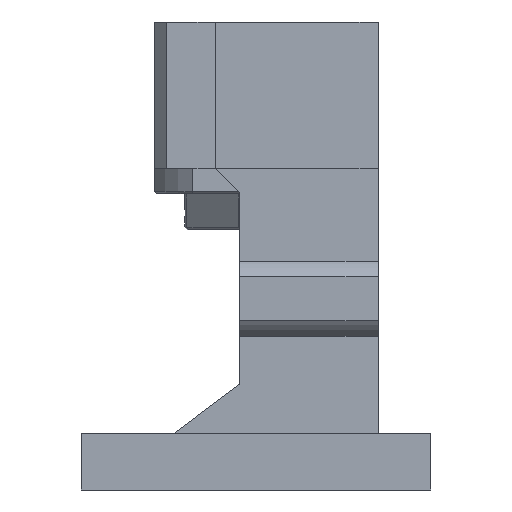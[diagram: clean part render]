
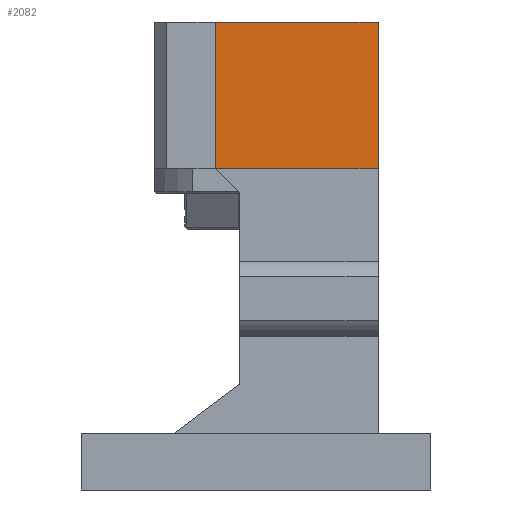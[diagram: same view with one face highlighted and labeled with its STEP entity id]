
A CAD part, left-side view. The second image highlights one B-rep face of the part: STEP entity #2082.
In plain terms, the highlighted planar face has unit normal (-1, 0, 0).
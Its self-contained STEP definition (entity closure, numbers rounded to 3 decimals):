
#190 = VECTOR ( 'NONE', #6085, 1000. ) ;
#367 = DIRECTION ( 'NONE',  ( 0., 0., 1. ) ) ;
#976 = VECTOR ( 'NONE', #7562, 1000. ) ;
#1036 = CARTESIAN_POINT ( 'NONE',  ( -44., 10., -30. ) ) ;
#1124 = CARTESIAN_POINT ( 'NONE',  ( -44., 10., 6. ) ) ;
#1686 = EDGE_CURVE ( 'NONE', #6877, #5844, #7786, .T. ) ;
#1707 = EDGE_LOOP ( 'NONE', ( #2124, #5259, #1896, #3257 ) ) ;
#1825 = LINE ( 'NONE', #2398, #190 ) ;
#1896 = ORIENTED_EDGE ( 'NONE', *, *, #6902, .F. ) ;
#2082 = ADVANCED_FACE ( 'NONE', ( #6319 ), #3403, .T. ) ;
#2124 = ORIENTED_EDGE ( 'NONE', *, *, #2819, .T. ) ;
#2398 = CARTESIAN_POINT ( 'NONE',  ( -44., 10., -30. ) ) ;
#2520 = LINE ( 'NONE', #2673, #5589 ) ;
#2658 = VERTEX_POINT ( 'NONE', #2817 ) ;
#2673 = CARTESIAN_POINT ( 'NONE',  ( -44., 10., -30. ) ) ;
#2817 = CARTESIAN_POINT ( 'NONE',  ( -44., -30., -30. ) ) ;
#2819 = EDGE_CURVE ( 'NONE', #2658, #5844, #7353, .T. ) ;
#2855 = VECTOR ( 'NONE', #3874, 1000. ) ;
#2994 = CARTESIAN_POINT ( 'NONE',  ( -44., 10., 6. ) ) ;
#3257 = ORIENTED_EDGE ( 'NONE', *, *, #4106, .T. ) ;
#3403 = PLANE ( 'NONE',  #6787 ) ;
#3533 = CARTESIAN_POINT ( 'NONE',  ( -44., -30., -30. ) ) ;
#3649 = DIRECTION ( 'NONE',  ( -1., 0., 0. ) ) ;
#3708 = VERTEX_POINT ( 'NONE', #1036 ) ;
#3874 = DIRECTION ( 'NONE',  ( 0., -1., 0. ) ) ;
#4106 = EDGE_CURVE ( 'NONE', #3708, #2658, #2520, .T. ) ;
#5259 = ORIENTED_EDGE ( 'NONE', *, *, #1686, .F. ) ;
#5439 = CARTESIAN_POINT ( 'NONE',  ( -44., -30., 6. ) ) ;
#5532 = CARTESIAN_POINT ( 'NONE',  ( -44., 10., -30. ) ) ;
#5589 = VECTOR ( 'NONE', #7504, 1000. ) ;
#5844 = VERTEX_POINT ( 'NONE', #5439 ) ;
#6085 = DIRECTION ( 'NONE',  ( 0., 0., 1. ) ) ;
#6319 = FACE_OUTER_BOUND ( 'NONE', #1707, .T. ) ;
#6787 = AXIS2_PLACEMENT_3D ( 'NONE', #5532, #3649, #367 ) ;
#6877 = VERTEX_POINT ( 'NONE', #1124 ) ;
#6902 = EDGE_CURVE ( 'NONE', #3708, #6877, #1825, .T. ) ;
#7353 = LINE ( 'NONE', #3533, #976 ) ;
#7504 = DIRECTION ( 'NONE',  ( 0., -1., 0. ) ) ;
#7562 = DIRECTION ( 'NONE',  ( 0., 0., 1. ) ) ;
#7786 = LINE ( 'NONE', #2994, #2855 ) ;
